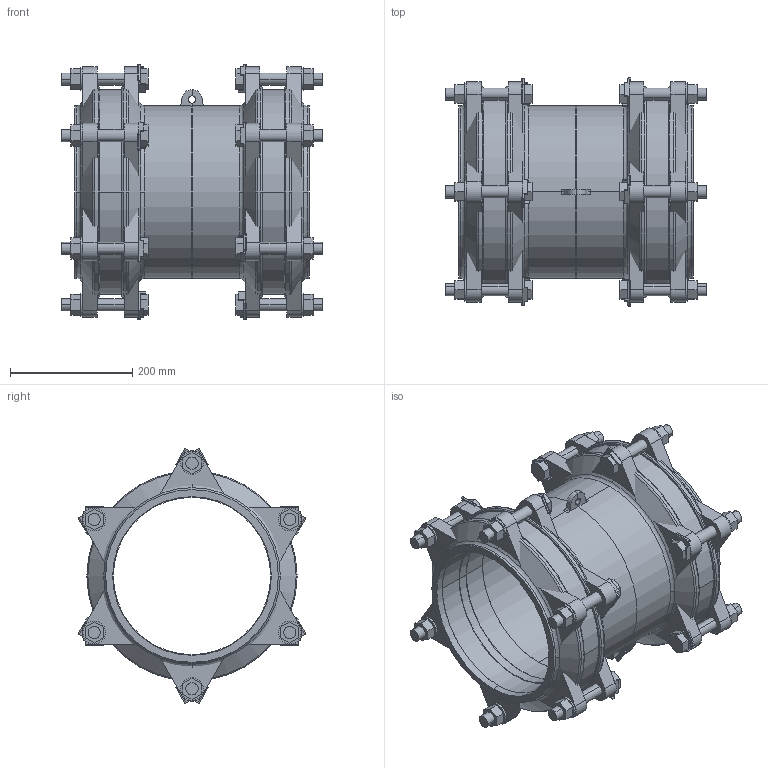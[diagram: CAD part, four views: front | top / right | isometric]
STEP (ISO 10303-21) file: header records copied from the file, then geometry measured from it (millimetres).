
FILE_DESCRIPTION(('STEP AP214'),'1');
FILE_NAME('MJ000061 DN 225.STP','2015-02-06T12:26:31',(' '),(' '),'Spatial InterOp 3D',' ',' ');
FILE_SCHEMA(('automotive_design'));
Length unit declared in the file: millimetre
Products named in the file (60): 3D-Objekt
Bounding box: 429 x 373.46 x 417.96 mm (x, y, z)
Volume: 9164785 mm3; surface area: 1932473 mm2
Topology: 60 solids, 60 shells, 766 faces, 1788 edges, 1188 vertices
Faces by surface type: plane 534, cylinder 188, torus 24, cone 20
Entity records: 29382 total; most frequent: DIRECTION 3916, CARTESIAN_POINT 3802, ORIENTED_EDGE 3576, EDGE_CURVE 1788, LINE 1312, VECTOR 1312, AXIS2_PLACEMENT_3D 1302, VERTEX_POINT 1188
